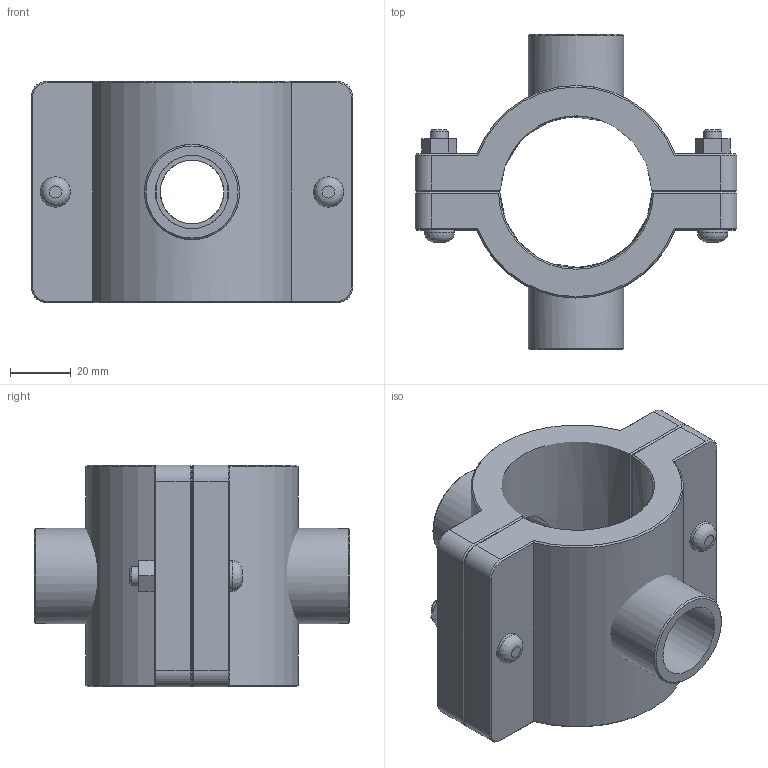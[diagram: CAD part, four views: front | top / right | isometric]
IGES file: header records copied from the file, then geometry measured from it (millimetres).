
Global section: file name: 161760050007_161860050007.ipt; native system: Autodesk Inventor 2015; preprocessor: unknown; author: KIM; date: 20170618.093655; units: millimetre
Bounding box: 106 x 104 x 73 mm (x, y, z)
Volume: 217672.2 mm3; surface area: 57458.4 mm2
Topology: 3 solids, 3 shells, 129 faces, 295 edges, 184 vertices
Faces by surface type: plane 68, cone 24, revolution 19, cylinder 18
Full cylindrical faces by diameter (mm): 6 x2, 10 x4, 31.352 x2
